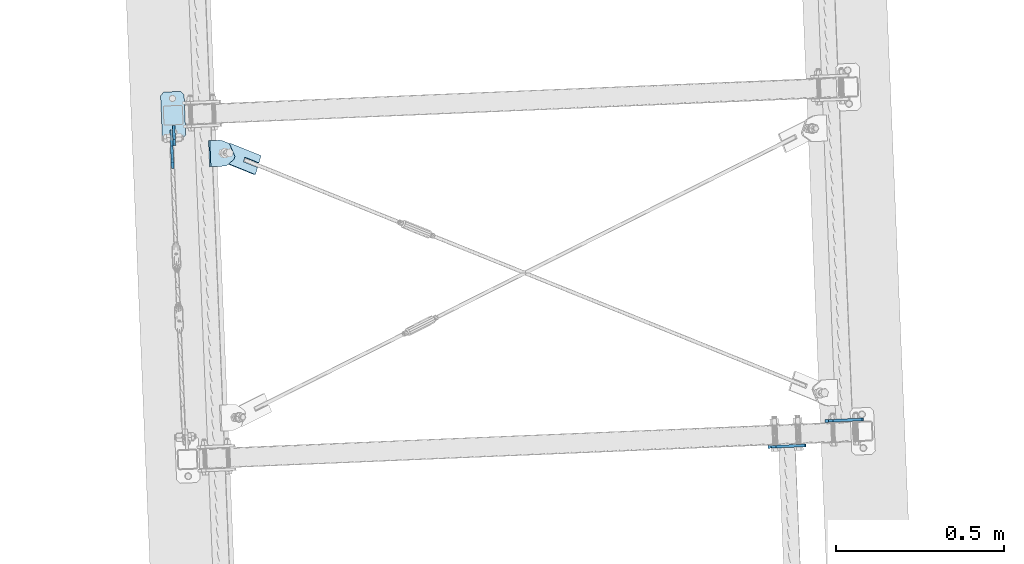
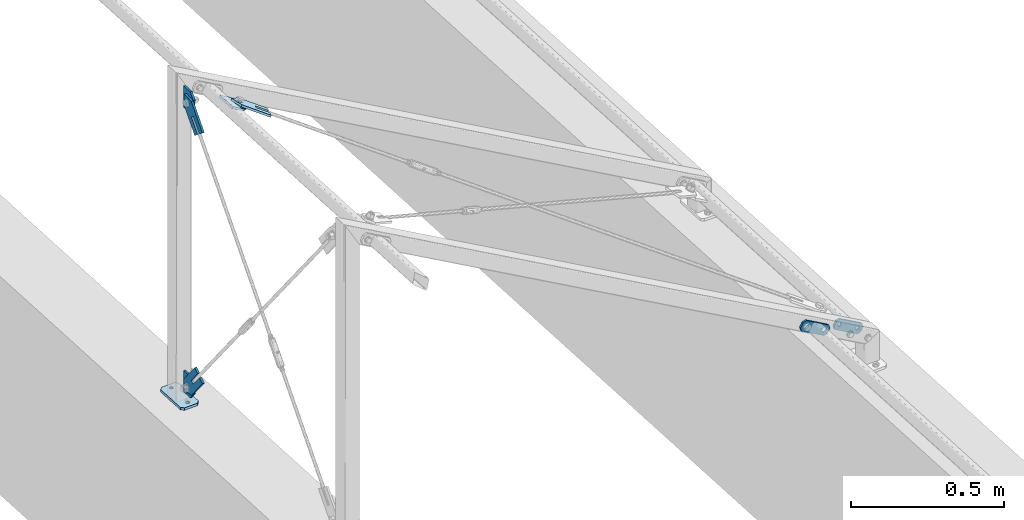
# One storey, part 38 of 288: 9 plates, 38 openings.
"""IFC2X3 building model written with IfcOpenShell, lengths in millimetres."""

from ifc_helpers import new_model, entity, si_unit, converted_unit, point, frame, frame_2d, origin, origin_with_axes, origin_2d_with_axis, place, context, project, spatial, polyline, circle_curve, line_curve, trimmed, segment, composite_curve, circle, outline, extrude, material, layer, layer_set, element, save


model = new_model("IFC2X3")

# Units and contexts
model_context = context("Model", 3, precision=1e-09, world=origin_with_axes())
ifc_project = project(units=[si_unit("LENGTHUNIT", "METRE", prefix="MILLI"), si_unit("AREAUNIT", "SQUARE_METRE"), si_unit("VOLUMEUNIT", "CUBIC_METRE"), converted_unit("PLANEANGLEUNIT", "DEGREE", entity("IfcPlaneAngleMeasure", 0.01745329), si_unit("PLANEANGLEUNIT", "RADIAN"), dimensions=[0, 0, 0, 0, 0, 0, 0])], contexts=[model_context])

# Site, building, storey
site_placement = place(None, origin_with_axes())
site = spatial("IfcSite", under=ifc_project, at=site_placement, Name="Remont ?wietlik?w nad MC w NCPP w Opolu", CompositionType="ELEMENT")
building_placement = place(site_placement, origin_with_axes())
building = spatial("IfcBuilding", under=site, at=building_placement, Name="Konstrukcja 1", CompositionType="ELEMENT")
storey_placement = place(building_placement, origin_with_axes())
storey = spatial("IfcBuildingStorey", under=building, at=storey_placement, Name="Default Storey", CompositionType="ELEMENT", Elevation=0.0)

# Plate, openings
ifc_material = material(Name="S235")
ifc_layer_1 = layer(ifc_material, 8.0)
ifc_layer_set_1 = layer_set([ifc_layer_1], Name="S235")
plate_1_placement = place(None, frame((1600.768762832, 4079.453566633, 149.695917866), z_axis=(-0.041662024, 0.999131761, 1.7472e-05), x_axis=(0.499566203, 0.020815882, 0.866025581)))
plate_1 = element("IfcPlate", 1, at=plate_1_placement, inside=storey, material=ifc_layer_set_1, Name="-", ObjectType="-", context=model_context, shape_type="SweptSolid", body=[
    extrude(outline(polyline([(0.0, 0.0), (40.0, 0.0), (40.0, 120.0), (0.0, 120.0), (0.0, 0.0)])), origin_with_axes(), (0.0, 0.0, 1.0), 8.0),
])
opening_1_placement = place(plate_1_placement, frame((0.0, 0.0, -0.01), z_axis=(0.0, 0.0, 1.0), x_axis=(1.0, 0.0, 0.0)))
element("IfcOpeningElement", 2, at=opening_1_placement, cuts=plate_1, ObjectType="Opening", context=model_context, shape_type="SweptSolid", body=[
    extrude(outline(composite_curve([segment(trimmed(line_curve((40.0, 0.0), (0.0, 1.0), 10.0), [point((40.0, 0.0))], [point((40.0, 10.0))], True, "CARTESIAN"), True, "CONTINUOUS"), segment(trimmed(circle_curve(frame_2d((30.0, 10.0), x_axis=(-1.0, 0.0)), 10.0), [point((40.0, 10.0))], [point((30.0, 0.0))], False, "CARTESIAN"), True, "CONTINUOUS"), segment(trimmed(line_curve((30.0, 0.0), (1.0, 0.0), 10.0), [point((30.0, 0.0))], [point((40.0, 0.0))], True, "CARTESIAN"), True, "CONTINUOUS")], self_intersect=False)), origin(), (0.0, 0.0, 1.0), 8.02),
])
opening_2_placement = place(plate_1_placement, frame((0.0, 0.0, -0.01), z_axis=(0.0, 0.0, 1.0), x_axis=(1.0, 0.0, 0.0)))
element("IfcOpeningElement", 3, at=opening_2_placement, cuts=plate_1, ObjectType="Opening", context=model_context, shape_type="SweptSolid", body=[
    extrude(outline(composite_curve([segment(trimmed(line_curve((0.0, 0.0), (1.0, 0.0), 10.0), [point((0.0, 0.0))], [point((10.0, 0.0))], True, "CARTESIAN"), True, "CONTINUOUS"), segment(trimmed(circle_curve(frame_2d((10.0, 10.0), x_axis=(-1.0, 0.0)), 10.0), [point((10.0, 0.0))], [point((0.0, 10.0))], False, "CARTESIAN"), True, "CONTINUOUS"), segment(trimmed(line_curve((0.0, 10.0), (0.0, -1.0), 10.0), [point((0.0, 10.0))], [point((0.0, 0.0))], True, "CARTESIAN"), True, "CONTINUOUS")], self_intersect=False)), origin(), (0.0, 0.0, 1.0), 8.02),
])
opening_3_placement = place(plate_1_placement, frame((0.0, 0.0, -0.01), z_axis=(0.0, 0.0, 1.0), x_axis=(1.0, 0.0, 0.0)))
element("IfcOpeningElement", 4, at=opening_3_placement, cuts=plate_1, ObjectType="Opening", context=model_context, shape_type="SweptSolid", body=[
    extrude(outline(composite_curve([segment(trimmed(line_curve((40.0, 120.0), (-1.0, 0.0), 10.0), [point((40.0, 120.0))], [point((30.0, 120.0))], True, "CARTESIAN"), True, "CONTINUOUS"), segment(trimmed(circle_curve(frame_2d((30.0, 110.0), x_axis=(-1.0, 0.0)), 10.0), [point((30.0, 120.0))], [point((40.0, 110.0))], False, "CARTESIAN"), True, "CONTINUOUS"), segment(trimmed(line_curve((40.0, 110.0), (0.0, 1.0), 10.0), [point((40.0, 110.0))], [point((40.0, 120.0))], True, "CARTESIAN"), True, "CONTINUOUS")], self_intersect=False)), origin(), (0.0, 0.0, 1.0), 8.02),
])
opening_4_placement = place(plate_1_placement, frame((0.0, 0.0, -0.01), z_axis=(0.0, 0.0, 1.0), x_axis=(1.0, 0.0, 0.0)))
element("IfcOpeningElement", 5, at=opening_4_placement, cuts=plate_1, ObjectType="Opening", context=model_context, shape_type="SweptSolid", body=[
    extrude(outline(composite_curve([segment(trimmed(line_curve((0.0, 120.0), (0.0, -1.0), 10.0), [point((0.0, 120.0))], [point((0.0, 110.0))], True, "CARTESIAN"), True, "CONTINUOUS"), segment(trimmed(circle_curve(frame_2d((10.0, 110.0), x_axis=(-1.0, 0.0)), 10.0), [point((0.0, 110.0))], [point((10.0, 120.0))], False, "CARTESIAN"), True, "CONTINUOUS"), segment(trimmed(line_curve((10.0, 120.0), (-1.0, 0.0), 10.0), [point((10.0, 120.0))], [point((0.0, 120.0))], True, "CARTESIAN"), True, "CONTINUOUS")], self_intersect=False)), origin(), (0.0, 0.0, 1.0), 8.02),
])
opening_5_placement = place(plate_1_placement, frame((19.99842578, 27.001033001, 8.499903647), z_axis=(-2.0054e-05, 4.2e-07, 1.0), x_axis=(1.0, 0.0, 2.0054e-05)))
element("IfcOpeningElement", 6, at=opening_5_placement, cuts=plate_1, ObjectType="Opening", context=model_context, shape_type="SweptSolid", body=[
    extrude(circle(Radius=7.001, at=frame_2d((-4e-09, -7.001), x_axis=(1.0, 0.0))), origin(), (0.0, 0.0, -1.0), 9.000033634),
])
opening_6_placement = place(plate_1_placement, frame((19.998425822, 107.001033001, 8.499870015), z_axis=(-2.0054e-05, 4.2e-07, 1.0), x_axis=(1.0, 0.0, 2.0054e-05)))
element("IfcOpeningElement", 7, at=opening_6_placement, cuts=plate_1, ObjectType="Opening", context=model_context, shape_type="SweptSolid", body=[
    extrude(circle(Radius=7.001, at=frame_2d((-4e-09, -7.001), x_axis=(1.0, 0.0))), origin(), (0.0, 0.0, -1.0), 9.000033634),
])

plate_2_placement = place(None, frame((1430.589775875, 4002.294911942, 249.68728671), z_axis=(-0.041662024, 0.999131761, 1.7472e-05), x_axis=(0.499566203, 0.020815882, 0.866025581)))
plate_2 = element("IfcPlate", 8, at=plate_2_placement, inside=storey, material=ifc_layer_set_1, Name="-", ObjectType="-", context=model_context, shape_type="SweptSolid", body=[
    extrude(outline(polyline([(0.0, 0.0), (40.0, 0.0), (40.0, 120.0), (0.0, 120.0), (0.0, 0.0)])), origin_with_axes(), (0.0, 0.0, 1.0), 8.0),
])
opening_7_placement = place(plate_2_placement, frame((0.0, 0.0, -0.01), z_axis=(0.0, 0.0, 1.0), x_axis=(1.0, 0.0, 0.0)))
element("IfcOpeningElement", 9, at=opening_7_placement, cuts=plate_2, ObjectType="Opening", context=model_context, shape_type="SweptSolid", body=[
    extrude(outline(composite_curve([segment(trimmed(line_curve((40.0, 0.0), (0.0, 1.0), 10.0), [point((40.0, 0.0))], [point((40.0, 10.0))], True, "CARTESIAN"), True, "CONTINUOUS"), segment(trimmed(circle_curve(frame_2d((30.0, 10.0), x_axis=(-1.0, 0.0)), 10.0), [point((40.0, 10.0))], [point((30.0, 0.0))], False, "CARTESIAN"), True, "CONTINUOUS"), segment(trimmed(line_curve((30.0, 0.0), (1.0, 0.0), 10.0), [point((30.0, 0.0))], [point((40.0, 0.0))], True, "CARTESIAN"), True, "CONTINUOUS")], self_intersect=False)), origin(), (0.0, 0.0, 1.0), 8.02),
])
opening_8_placement = place(plate_2_placement, frame((0.0, 0.0, -0.01), z_axis=(0.0, 0.0, 1.0), x_axis=(1.0, 0.0, 0.0)))
element("IfcOpeningElement", 10, at=opening_8_placement, cuts=plate_2, ObjectType="Opening", context=model_context, shape_type="SweptSolid", body=[
    extrude(outline(composite_curve([segment(trimmed(line_curve((0.0, 0.0), (1.0, 0.0), 10.0), [point((0.0, 0.0))], [point((10.0, 0.0))], True, "CARTESIAN"), True, "CONTINUOUS"), segment(trimmed(circle_curve(frame_2d((10.0, 10.0), x_axis=(-1.0, 0.0)), 10.0), [point((10.0, 0.0))], [point((0.0, 10.0))], False, "CARTESIAN"), True, "CONTINUOUS"), segment(trimmed(line_curve((0.0, 10.0), (0.0, -1.0), 10.0), [point((0.0, 10.0))], [point((0.0, 0.0))], True, "CARTESIAN"), True, "CONTINUOUS")], self_intersect=False)), origin(), (0.0, 0.0, 1.0), 8.02),
])
opening_9_placement = place(plate_2_placement, frame((0.0, 0.0, -0.01), z_axis=(0.0, 0.0, 1.0), x_axis=(1.0, 0.0, 0.0)))
element("IfcOpeningElement", 11, at=opening_9_placement, cuts=plate_2, ObjectType="Opening", context=model_context, shape_type="SweptSolid", body=[
    extrude(outline(composite_curve([segment(trimmed(line_curve((40.0, 120.0), (-1.0, 0.0), 10.0), [point((40.0, 120.0))], [point((30.0, 120.0))], True, "CARTESIAN"), True, "CONTINUOUS"), segment(trimmed(circle_curve(frame_2d((30.0, 110.0), x_axis=(-1.0, 0.0)), 10.0), [point((30.0, 120.0))], [point((40.0, 110.0))], False, "CARTESIAN"), True, "CONTINUOUS"), segment(trimmed(line_curve((40.0, 110.0), (0.0, 1.0), 10.0), [point((40.0, 110.0))], [point((40.0, 120.0))], True, "CARTESIAN"), True, "CONTINUOUS")], self_intersect=False)), origin(), (0.0, 0.0, 1.0), 8.02),
])
opening_10_placement = place(plate_2_placement, frame((0.0, 0.0, -0.01), z_axis=(0.0, 0.0, 1.0), x_axis=(1.0, 0.0, 0.0)))
element("IfcOpeningElement", 12, at=opening_10_placement, cuts=plate_2, ObjectType="Opening", context=model_context, shape_type="SweptSolid", body=[
    extrude(outline(composite_curve([segment(trimmed(line_curve((0.0, 120.0), (0.0, -1.0), 10.0), [point((0.0, 120.0))], [point((0.0, 110.0))], True, "CARTESIAN"), True, "CONTINUOUS"), segment(trimmed(circle_curve(frame_2d((10.0, 110.0), x_axis=(-1.0, 0.0)), 10.0), [point((0.0, 110.0))], [point((10.0, 120.0))], False, "CARTESIAN"), True, "CONTINUOUS"), segment(trimmed(line_curve((10.0, 120.0), (-1.0, 0.0), 10.0), [point((10.0, 120.0))], [point((0.0, 120.0))], True, "CARTESIAN"), True, "CONTINUOUS")], self_intersect=False)), origin(), (0.0, 0.0, 1.0), 8.02),
])
opening_11_placement = place(plate_2_placement, frame((19.999829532, 29.001003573, 8.499866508), z_axis=(-2.0054e-05, 4.2e-07, 1.0), x_axis=(1.0, 0.0, 2.0054e-05)))
element("IfcOpeningElement", 13, at=opening_11_placement, cuts=plate_2, ObjectType="Opening", context=model_context, shape_type="SweptSolid", body=[
    extrude(circle(Radius=9.001, at=frame_2d((-5e-09, -9.001), x_axis=(1.0, 0.0))), origin(), (0.0, 0.0, -1.0), 9.000033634),
])
opening_12_placement = place(plate_2_placement, frame((19.999829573, 109.001003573, 8.499832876), z_axis=(-2.0054e-05, 4.2e-07, 1.0), x_axis=(1.0, 0.0, 2.0054e-05)))
element("IfcOpeningElement", 14, at=opening_12_placement, cuts=plate_2, ObjectType="Opening", context=model_context, shape_type="SweptSolid", body=[
    extrude(circle(Radius=9.001, at=frame_2d((-5e-09, -9.001), x_axis=(1.0, 0.0))), origin(), (0.0, 0.0, -1.0), 9.000033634),
])

ifc_layer_2 = layer(ifc_material, 10.0)
ifc_layer_set_2 = layer_set([ifc_layer_2], Name="S235")
plate_3_placement = place(None, frame((-295.450163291, 4924.625800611, 10.000000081), z_axis=(0.0, 0.0, -1.0), x_axis=(-0.999131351, -0.041671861, 0.0)))
plate_3 = element("IfcPlate", 15, at=plate_3_placement, inside=storey, material=ifc_layer_set_2, Name="Baseplate", ObjectType="Baseplate", context=model_context, shape_type="SweptSolid", body=[
    extrude(outline(polyline([(0.0, 0.0), (70.0, 0.0), (70.0, 140.0), (0.0, 140.0), (0.0, 0.0)])), origin_with_axes(), (0.0, 0.0, 1.0), 10.0),
])
opening_13_placement = place(plate_3_placement, frame((0.0, 0.0, -0.01), z_axis=(0.0, 0.0, 1.0), x_axis=(1.0, 0.0, 0.0)))
element("IfcOpeningElement", 16, at=opening_13_placement, cuts=plate_3, ObjectType="Opening", context=model_context, shape_type="SweptSolid", body=[
    extrude(outline(composite_curve([segment(trimmed(line_curve((70.0, 0.0), (0.0, 1.0), 10.0), [point((70.0, 0.0))], [point((70.0, 10.0))], True, "CARTESIAN"), True, "CONTINUOUS"), segment(trimmed(circle_curve(frame_2d((60.0, 10.0), x_axis=(-1.0, 0.0)), 10.0), [point((70.0, 10.0))], [point((60.0, 0.0))], False, "CARTESIAN"), True, "CONTINUOUS"), segment(trimmed(line_curve((60.0, 0.0), (1.0, 0.0), 10.0), [point((60.0, 0.0))], [point((70.0, 0.0))], True, "CARTESIAN"), True, "CONTINUOUS")], self_intersect=False)), origin(), (0.0, 0.0, 1.0), 10.02),
])
opening_14_placement = place(plate_3_placement, frame((0.0, 0.0, -0.01), z_axis=(0.0, 0.0, 1.0), x_axis=(1.0, 0.0, 0.0)))
element("IfcOpeningElement", 17, at=opening_14_placement, cuts=plate_3, ObjectType="Opening", context=model_context, shape_type="SweptSolid", body=[
    extrude(outline(composite_curve([segment(trimmed(line_curve((0.0, 0.0), (1.0, 0.0), 10.0), [point((0.0, 0.0))], [point((10.0, 0.0))], True, "CARTESIAN"), True, "CONTINUOUS"), segment(trimmed(circle_curve(frame_2d((10.0, 10.0), x_axis=(-1.0, 0.0)), 10.0), [point((10.0, 0.0))], [point((0.0, 10.0))], False, "CARTESIAN"), True, "CONTINUOUS"), segment(trimmed(line_curve((0.0, 10.0), (0.0, -1.0), 10.0), [point((0.0, 10.0))], [point((0.0, 0.0))], True, "CARTESIAN"), True, "CONTINUOUS")], self_intersect=False)), origin(), (0.0, 0.0, 1.0), 10.02),
])
opening_15_placement = place(plate_3_placement, frame((0.0, 0.0, -0.01), z_axis=(0.0, 0.0, 1.0), x_axis=(1.0, 0.0, 0.0)))
element("IfcOpeningElement", 18, at=opening_15_placement, cuts=plate_3, ObjectType="Opening", context=model_context, shape_type="SweptSolid", body=[
    extrude(outline(composite_curve([segment(trimmed(line_curve((70.0, 140.0), (-1.0, 0.0), 10.0), [point((70.0, 140.0))], [point((60.0, 140.0))], True, "CARTESIAN"), True, "CONTINUOUS"), segment(trimmed(circle_curve(frame_2d((60.0, 130.0), x_axis=(-1.0, 0.0)), 10.0), [point((60.0, 140.0))], [point((70.0, 130.0))], False, "CARTESIAN"), True, "CONTINUOUS"), segment(trimmed(line_curve((70.0, 130.0), (0.0, 1.0), 10.0), [point((70.0, 130.0))], [point((70.0, 140.0))], True, "CARTESIAN"), True, "CONTINUOUS")], self_intersect=False)), origin(), (0.0, 0.0, 1.0), 10.02),
])
opening_16_placement = place(plate_3_placement, frame((0.0, 0.0, -0.01), z_axis=(0.0, 0.0, 1.0), x_axis=(1.0, 0.0, 0.0)))
element("IfcOpeningElement", 19, at=opening_16_placement, cuts=plate_3, ObjectType="Opening", context=model_context, shape_type="SweptSolid", body=[
    extrude(outline(composite_curve([segment(trimmed(line_curve((0.0, 140.0), (0.0, -1.0), 10.0), [point((0.0, 140.0))], [point((0.0, 130.0))], True, "CARTESIAN"), True, "CONTINUOUS"), segment(trimmed(circle_curve(frame_2d((10.0, 130.0), x_axis=(-1.0, 0.0)), 10.0), [point((0.0, 130.0))], [point((10.0, 140.0))], False, "CARTESIAN"), True, "CONTINUOUS"), segment(trimmed(line_curve((10.0, 140.0), (-1.0, 0.0), 10.0), [point((10.0, 140.0))], [point((0.0, 140.0))], True, "CARTESIAN"), True, "CONTINUOUS")], self_intersect=False)), origin(), (0.0, 0.0, 1.0), 10.02),
])
opening_17_placement = place(plate_3_placement, frame((35.0, 20.0, 10.5), z_axis=(0.0, 0.0, -1.0), x_axis=(1.0, 0.0, 0.0)))
element("IfcOpeningElement", 20, at=opening_17_placement, cuts=plate_3, ObjectType="Opening", context=model_context, shape_type="SweptSolid", body=[
    extrude(circle(Radius=6.001, at=origin_2d_with_axis()), origin(), (0.0, 0.0, 1.0), 11.0),
])
opening_18_placement = place(plate_3_placement, frame((35.0, 120.0, 10.5), z_axis=(0.0, 0.0, -1.0), x_axis=(1.0, 0.0, 0.0)))
element("IfcOpeningElement", 21, at=opening_18_placement, cuts=plate_3, ObjectType="Opening", context=model_context, shape_type="SweptSolid", body=[
    extrude(circle(Radius=6.001, at=origin_2d_with_axis()), origin(), (0.0, 0.0, 1.0), 11.0),
])

plate_4_placement = place(None, frame((-330.723490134, 4834.507582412, 153.409700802), z_axis=(-0.999130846, -0.041683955, 0.0), x_axis=(-0.032787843, 0.785898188, 0.617486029)))
plate_4 = element("IfcPlate", 22, at=plate_4_placement, inside=storey, material=ifc_layer_set_1, Name="Tab_Plate#1", ObjectType="Tab_Plate#1", context=model_context, shape_type="SweptSolid", body=[
    extrude(outline(polyline([(0.0, 0.0), (60.0, 0.0), (60.0, 140.0), (0.0, 140.0), (0.0, 0.0)])), origin_with_axes(), (0.0, 0.0, 1.0), 8.0),
])
opening_19_placement = place(plate_4_placement, frame((0.0, 0.0, -0.01), z_axis=(0.0, 0.0, 1.0), x_axis=(1.0, 0.0, 0.0)))
element("IfcOpeningElement", 23, at=opening_19_placement, cuts=plate_4, ObjectType="Opening", context=model_context, shape_type="SweptSolid", body=[
    extrude(outline(composite_curve([segment(trimmed(line_curve((60.0, 140.0), (-1.0, 0.0), 30.0), [point((60.0, 140.0))], [point((30.0, 140.0))], True, "CARTESIAN"), True, "CONTINUOUS"), segment(trimmed(circle_curve(frame_2d((30.0, 110.0), x_axis=(-1.0, 0.0)), 30.0), [point((30.0, 140.0))], [point((60.0, 110.0))], False, "CARTESIAN"), True, "CONTINUOUS"), segment(trimmed(line_curve((60.0, 110.0), (0.0, 1.0), 30.0), [point((60.0, 110.0))], [point((60.0, 140.0))], True, "CARTESIAN"), True, "CONTINUOUS")], self_intersect=False)), origin(), (0.0, 0.0, 1.0), 8.02),
])
opening_20_placement = place(plate_4_placement, frame((0.0, 0.0, -0.01), z_axis=(0.0, 0.0, 1.0), x_axis=(1.0, 0.0, 0.0)))
element("IfcOpeningElement", 24, at=opening_20_placement, cuts=plate_4, ObjectType="Opening", context=model_context, shape_type="SweptSolid", body=[
    extrude(outline(composite_curve([segment(trimmed(line_curve((0.0, 140.0), (0.0, -1.0), 30.0), [point((0.0, 140.0))], [point((0.0, 110.0))], True, "CARTESIAN"), True, "CONTINUOUS"), segment(trimmed(circle_curve(frame_2d((30.0, 110.0), x_axis=(-1.0, 0.0)), 30.0), [point((0.0, 110.0))], [point((30.0, 140.0))], False, "CARTESIAN"), True, "CONTINUOUS"), segment(trimmed(line_curve((30.0, 140.0), (-1.0, 0.0), 30.0), [point((30.0, 140.0))], [point((0.0, 140.0))], True, "CARTESIAN"), True, "CONTINUOUS")], self_intersect=False)), origin(), (0.0, 0.0, 1.0), 8.02),
])
opening_21_placement = place(plate_4_placement, frame((0.0, 0.0, 8.1), z_axis=(0.0, 0.0, -1.0), x_axis=(0.786581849, 0.617486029, 0.0)))
element("IfcOpeningElement", 25, at=opening_21_placement, cuts=plate_4, ObjectType="Opening", context=model_context, shape_type="SweptSolid", body=[
    extrude(outline(polyline([(55.757861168, -33.780718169), (66.771580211, -25.134678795), (29.103697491, 22.848387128), (18.089978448, 14.202347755), (55.757861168, -33.780718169)])), origin(), (0.0, 0.0, 1.0), 8.2),
])
opening_22_placement = place(plate_4_placement, frame((30.0, 110.0, 8.5), z_axis=(0.0, 0.0, -1.0), x_axis=(0.0, -1.0, 0.0)))
element("IfcOpeningElement", 26, at=opening_22_placement, cuts=plate_4, ObjectType="Opening", context=model_context, shape_type="SweptSolid", body=[
    extrude(circle(Radius=9.001, at=origin_2d_with_axis()), origin(), (0.0, 0.0, 1.0), 9.0),
])

plate_5_placement = place(None, frame((-334.749901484, 4931.017420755, 127.532314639), z_axis=(0.999130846, 0.041683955, 0.0), x_axis=(0.032787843, -0.785898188, -0.617486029)))
plate_5 = element("IfcPlate", 27, at=plate_5_placement, inside=storey, material=ifc_layer_set_1, Name="Gusset#1", ObjectType="Gusset#1", context=model_context, shape_type="SweptSolid", body=[
    extrude(outline(polyline([(0.0, 0.0), (60.0, 0.0), (60.0, 60.0), (26.867685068, 86.009679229), (-25.151852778, 19.744820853), (0.0, 0.0)])), origin_with_axes(), (0.0, 0.0, 1.0), 8.0),
])
opening_23_placement = place(plate_5_placement, frame((30.0, 30.0, -0.5), z_axis=(0.0, 0.0, 1.0), x_axis=(0.0, -1.0, 0.0)))
element("IfcOpeningElement", 28, at=opening_23_placement, cuts=plate_5, ObjectType="Opening", context=model_context, shape_type="SweptSolid", body=[
    extrude(circle(Radius=9.001, at=origin_2d_with_axis()), origin(), (0.0, 0.0, 1.0), 9.0),
])
opening_24_placement = place(plate_5_placement, frame((0.0, 0.0, -0.01), z_axis=(0.0, 0.0, 1.0), x_axis=(1.0, 0.0, 0.0)))
element("IfcOpeningElement", 29, at=opening_24_placement, cuts=plate_5, ObjectType="Opening", context=model_context, shape_type="SweptSolid", body=[
    extrude(outline(composite_curve([segment(trimmed(line_curve((60.0, 0.0), (0.0, 1.0), 30.0), [point((60.0, 0.0))], [point((60.0, 30.0))], True, "CARTESIAN"), True, "CONTINUOUS"), segment(trimmed(circle_curve(frame_2d((30.0, 30.0), x_axis=(-1.0, 0.0)), 30.0), [point((60.0, 30.0))], [point((30.0, 0.0))], False, "CARTESIAN"), True, "CONTINUOUS"), segment(trimmed(line_curve((30.0, 0.0), (1.0, 0.0), 30.0), [point((30.0, 0.0))], [point((60.0, 0.0))], True, "CARTESIAN"), True, "CONTINUOUS")], self_intersect=False)), origin(), (0.0, 0.0, 1.0), 8.02),
])

plate_6_placement = place(None, frame((-338.70798654, 4834.174564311, 1151.590299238), z_axis=(0.999131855, 0.041659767, 0.0), x_axis=(-0.032768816, 0.785898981, -0.617486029)))
plate_6 = element("IfcPlate", 30, at=plate_6_placement, inside=storey, material=ifc_layer_set_1, Name="Tab_Plate#2", ObjectType="Tab_Plate#2", context=model_context, shape_type="SweptSolid", body=[
    extrude(outline(polyline([(0.0, 0.0), (60.0, 0.0), (60.0, 140.0), (0.0, 140.0), (0.0, 0.0)])), origin_with_axes(), (0.0, 0.0, 1.0), 8.0),
])
opening_25_placement = place(plate_6_placement, frame((0.0, 0.0, -0.01), z_axis=(0.0, 0.0, 1.0), x_axis=(1.0, 0.0, 0.0)))
element("IfcOpeningElement", 31, at=opening_25_placement, cuts=plate_6, ObjectType="Opening", context=model_context, shape_type="SweptSolid", body=[
    extrude(outline(composite_curve([segment(trimmed(line_curve((60.0, 140.0), (-1.0, 0.0), 30.0), [point((60.0, 140.0))], [point((30.0, 140.0))], True, "CARTESIAN"), True, "CONTINUOUS"), segment(trimmed(circle_curve(frame_2d((30.0, 110.0), x_axis=(-1.0, 0.0)), 30.0), [point((30.0, 140.0))], [point((60.0, 110.0))], False, "CARTESIAN"), True, "CONTINUOUS"), segment(trimmed(line_curve((60.0, 110.0), (0.0, 1.0), 30.0), [point((60.0, 110.0))], [point((60.0, 140.0))], True, "CARTESIAN"), True, "CONTINUOUS")], self_intersect=False)), origin(), (0.0, 0.0, 1.0), 8.02),
])
opening_26_placement = place(plate_6_placement, frame((0.0, 0.0, -0.01), z_axis=(0.0, 0.0, 1.0), x_axis=(1.0, 0.0, 0.0)))
element("IfcOpeningElement", 32, at=opening_26_placement, cuts=plate_6, ObjectType="Opening", context=model_context, shape_type="SweptSolid", body=[
    extrude(outline(composite_curve([segment(trimmed(line_curve((0.0, 140.0), (0.0, -1.0), 30.0), [point((0.0, 140.0))], [point((0.0, 110.0))], True, "CARTESIAN"), True, "CONTINUOUS"), segment(trimmed(circle_curve(frame_2d((30.0, 110.0), x_axis=(-1.0, 0.0)), 30.0), [point((0.0, 110.0))], [point((30.0, 140.0))], False, "CARTESIAN"), True, "CONTINUOUS"), segment(trimmed(line_curve((30.0, 140.0), (-1.0, 0.0), 30.0), [point((30.0, 140.0))], [point((0.0, 140.0))], True, "CARTESIAN"), True, "CONTINUOUS")], self_intersect=False)), origin(), (0.0, 0.0, 1.0), 8.02),
])
opening_27_placement = place(plate_6_placement, frame((0.0, 0.0, 8.1), z_axis=(0.0, 0.0, -1.0), x_axis=(-0.786581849, -0.617486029, 0.0)))
element("IfcOpeningElement", 33, at=opening_27_placement, cuts=plate_6, ObjectType="Opening", context=model_context, shape_type="SweptSolid", body=[
    extrude(outline(polyline([(-55.757861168, 33.780718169), (-66.771580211, 25.134678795), (-29.103697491, -22.848387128), (-18.089978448, -14.202347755), (-55.757861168, 33.780718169)])), origin(), (0.0, 0.0, 1.0), 8.2),
])
opening_28_placement = place(plate_6_placement, frame((30.0, 110.0, 8.5), z_axis=(0.0, 0.0, -1.0), x_axis=(0.0, -1.0, 0.0)))
element("IfcOpeningElement", 34, at=opening_28_placement, cuts=plate_6, ObjectType="Opening", context=model_context, shape_type="SweptSolid", body=[
    extrude(circle(Radius=9.001, at=origin_2d_with_axis()), origin(), (0.0, 0.0, 1.0), 9.0),
])

plate_7_placement = place(None, frame((-326.745951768, 4931.351056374, 1177.467685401), z_axis=(-0.999131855, -0.041659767, 0.0), x_axis=(0.032768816, -0.785898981, 0.617486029)))
plate_7 = element("IfcPlate", 35, at=plate_7_placement, inside=storey, material=ifc_layer_set_1, Name="Gusset#2", ObjectType="Gusset#2", context=model_context, shape_type="SweptSolid", body=[
    extrude(outline(polyline([(0.0, 0.0), (60.0, 0.0), (60.0, 60.0), (26.867532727, 86.009798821), (-25.152005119, 19.744940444), (0.0, 0.0)])), origin_with_axes(), (0.0, 0.0, 1.0), 8.0),
])
opening_29_placement = place(plate_7_placement, frame((30.0, 30.0, -0.5), z_axis=(0.0, 0.0, 1.0), x_axis=(0.0, -1.0, 0.0)))
element("IfcOpeningElement", 36, at=opening_29_placement, cuts=plate_7, ObjectType="Opening", context=model_context, shape_type="SweptSolid", body=[
    extrude(circle(Radius=9.001, at=origin_2d_with_axis()), origin(), (0.0, 0.0, 1.0), 9.0),
])
opening_30_placement = place(plate_7_placement, frame((0.0, 0.0, -0.01), z_axis=(0.0, 0.0, 1.0), x_axis=(1.0, 0.0, 0.0)))
element("IfcOpeningElement", 37, at=opening_30_placement, cuts=plate_7, ObjectType="Opening", context=model_context, shape_type="SweptSolid", body=[
    extrude(outline(composite_curve([segment(trimmed(line_curve((60.0, 0.0), (0.0, 1.0), 30.0), [point((60.0, 0.0))], [point((60.0, 30.0))], True, "CARTESIAN"), True, "CONTINUOUS"), segment(trimmed(circle_curve(frame_2d((30.0, 30.0), x_axis=(-1.0, 0.0)), 30.0), [point((60.0, 30.0))], [point((30.0, 0.0))], False, "CARTESIAN"), True, "CONTINUOUS"), segment(trimmed(line_curve((30.0, 0.0), (1.0, 0.0), 30.0), [point((30.0, 0.0))], [point((60.0, 0.0))], True, "CARTESIAN"), True, "CONTINUOUS")], self_intersect=False)), origin(), (0.0, 0.0, 1.0), 8.02),
])

plate_8_placement = place(None, frame((-71.893356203, 4872.987775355, 1135.490336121), z_axis=(-0.500767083, -0.020865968, -0.865330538), x_axis=(-0.276563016, -0.943450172, 0.182796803)))
plate_8 = element("IfcPlate", 38, at=plate_8_placement, inside=storey, material=ifc_layer_set_1, Name="Tab_Plate#1", ObjectType="Tab_Plate#1", context=model_context, shape_type="SweptSolid", body=[
    extrude(outline(polyline([(0.0, 0.0), (60.0, 0.0), (60.0, 140.0), (0.0, 140.0), (0.0, 0.0)])), origin_with_axes(), (0.0, 0.0, 1.0), 8.0),
])
opening_31_placement = place(plate_8_placement, frame((0.0, 0.0, -0.01), z_axis=(0.0, 0.0, 1.0), x_axis=(1.0, 0.0, 0.0)))
element("IfcOpeningElement", 39, at=opening_31_placement, cuts=plate_8, ObjectType="Opening", context=model_context, shape_type="SweptSolid", body=[
    extrude(outline(composite_curve([segment(trimmed(line_curve((60.0, 140.0), (-1.0, 0.0), 30.0), [point((60.0, 140.0))], [point((30.0, 140.0))], True, "CARTESIAN"), True, "CONTINUOUS"), segment(trimmed(circle_curve(frame_2d((30.0, 110.0), x_axis=(-1.0, 0.0)), 30.0), [point((30.0, 140.0))], [point((60.0, 110.0))], False, "CARTESIAN"), True, "CONTINUOUS"), segment(trimmed(line_curve((60.0, 110.0), (0.0, 1.0), 30.0), [point((60.0, 110.0))], [point((60.0, 140.0))], True, "CARTESIAN"), True, "CONTINUOUS")], self_intersect=False)), origin(), (0.0, 0.0, 1.0), 8.02),
])
opening_32_placement = place(plate_8_placement, frame((0.0, 0.0, -0.01), z_axis=(0.0, 0.0, 1.0), x_axis=(1.0, 0.0, 0.0)))
element("IfcOpeningElement", 40, at=opening_32_placement, cuts=plate_8, ObjectType="Opening", context=model_context, shape_type="SweptSolid", body=[
    extrude(outline(composite_curve([segment(trimmed(line_curve((0.0, 140.0), (0.0, -1.0), 30.0), [point((0.0, 140.0))], [point((0.0, 110.0))], True, "CARTESIAN"), True, "CONTINUOUS"), segment(trimmed(circle_curve(frame_2d((30.0, 110.0), x_axis=(-1.0, 0.0)), 30.0), [point((0.0, 110.0))], [point((30.0, 140.0))], False, "CARTESIAN"), True, "CONTINUOUS"), segment(trimmed(line_curve((30.0, 140.0), (-1.0, 0.0), 30.0), [point((30.0, 140.0))], [point((0.0, 140.0))], True, "CARTESIAN"), True, "CONTINUOUS")], self_intersect=False)), origin(), (0.0, 0.0, 1.0), 8.02),
])
opening_33_placement = place(plate_8_placement, frame((0.0, 0.0, 8.1), z_axis=(0.0, 0.0, -1.0), x_axis=(-0.931118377, 0.364717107, 0.0)))
element("IfcOpeningElement", 41, at=opening_33_placement, cuts=plate_8, ObjectType="Opening", context=model_context, shape_type="SweptSolid", body=[
    extrude(outline(polyline([(-2.813854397, 55.876097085), (-15.851373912, 60.982866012), (-34.452675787, 13.493966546), (-21.415156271, 8.387197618), (-2.813854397, 55.876097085)])), origin(), (0.0, 0.0, 1.0), 8.2),
])
opening_34_placement = place(plate_8_placement, frame((30.0, 110.0, 8.5), z_axis=(0.0, 0.0, -1.0), x_axis=(0.0, -1.0, 0.0)))
element("IfcOpeningElement", 42, at=opening_34_placement, cuts=plate_8, ObjectType="Opening", context=model_context, shape_type="SweptSolid", body=[
    extrude(circle(Radius=9.001, at=origin_2d_with_axis()), origin(), (0.0, 0.0, 1.0), 9.0),
])

plate_9_placement = place(None, frame((-162.116248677, 4842.515473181, 1169.947098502), z_axis=(0.500767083, 0.020865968, 0.865330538), x_axis=(0.276563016, 0.943450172, -0.182796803)))
plate_9 = element("IfcPlate", 43, at=plate_9_placement, inside=storey, material=ifc_layer_set_1, Name="Gusset#1", ObjectType="Gusset#1", context=model_context, shape_type="SweptSolid", body=[
    extrude(outline(polyline([(0.0, 0.0), (60.0, 0.0), (60.0, 60.0), (45.826198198, 96.181831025), (-26.568490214, 67.822073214), (0.0, 0.0)])), origin_with_axes(), (0.0, 0.0, 1.0), 8.0),
])
opening_35_placement = place(plate_9_placement, frame((30.0, 30.0, -0.5), z_axis=(0.0, 0.0, 1.0), x_axis=(0.0, -1.0, 0.0)))
element("IfcOpeningElement", 44, at=opening_35_placement, cuts=plate_9, ObjectType="Opening", context=model_context, shape_type="SweptSolid", body=[
    extrude(circle(Radius=9.001, at=origin_2d_with_axis()), origin(), (0.0, 0.0, 1.0), 9.0),
])
opening_36_placement = place(plate_9_placement, frame((0.0, 0.0, -0.01), z_axis=(0.0, 0.0, 1.0), x_axis=(1.0, 0.0, 0.0)))
element("IfcOpeningElement", 45, at=opening_36_placement, cuts=plate_9, ObjectType="Opening", context=model_context, shape_type="SweptSolid", body=[
    extrude(outline(composite_curve([segment(trimmed(line_curve((0.0, 0.0), (1.0, 0.0), 20.467615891), [point((0.0, 0.0))], [point((20.467615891, 0.0))], True, "CARTESIAN"), True, "CONTINUOUS"), segment(trimmed(circle_curve(frame_2d((20.467615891, 30.0), x_axis=(-1.0, 0.0)), 30.0), [point((20.467615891, 0.0))], [point((-7.465553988, 19.057513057))], False, "CARTESIAN"), True, "CONTINUOUS"), segment(trimmed(line_curve((-7.465553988, 19.057513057), (0.364749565, -0.931105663), 20.467615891), [point((-7.465553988, 19.057513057))], [point((0.0, 0.0))], True, "CARTESIAN"), True, "CONTINUOUS")], self_intersect=False)), origin(), (0.0, 0.0, 1.0), 8.02),
])
opening_37_placement = place(plate_9_placement, frame((0.0, 0.0, -0.01), z_axis=(0.0, 0.0, 1.0), x_axis=(1.0, 0.0, 0.0)))
element("IfcOpeningElement", 46, at=opening_37_placement, cuts=plate_9, ObjectType="Opening", context=model_context, shape_type="SweptSolid", body=[
    extrude(outline(composite_curve([segment(trimmed(line_curve((60.0, 0.0), (0.0, 1.0), 30.0), [point((60.0, 0.0))], [point((60.0, 30.0))], True, "CARTESIAN"), True, "CONTINUOUS"), segment(trimmed(circle_curve(frame_2d((30.0, 30.0), x_axis=(-1.0, 0.0)), 30.0), [point((60.0, 30.0))], [point((30.0, 0.0))], False, "CARTESIAN"), True, "CONTINUOUS"), segment(trimmed(line_curve((30.0, 0.0), (1.0, 0.0), 30.0), [point((30.0, 0.0))], [point((60.0, 0.0))], True, "CARTESIAN"), True, "CONTINUOUS")], self_intersect=False)), origin(), (0.0, 0.0, 1.0), 8.02),
])
opening_38_placement = place(plate_9_placement, frame((0.0, 0.0, -0.01), z_axis=(0.0, 0.0, 1.0), x_axis=(1.0, 0.0, 0.0)))
element("IfcOpeningElement", 47, at=opening_38_placement, cuts=plate_9, ObjectType="Opening", context=model_context, shape_type="SweptSolid", body=[
    extrude(outline(composite_curve([segment(trimmed(line_curve((60.0, 60.0), (-0.364749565, 0.931105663), 5.666436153), [point((60.0, 60.0))], [point((57.933169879, 65.276050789))], True, "CARTESIAN"), True, "CONTINUOUS"), segment(trimmed(circle_curve(frame_2d((30.0, 54.333563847), x_axis=(-1.0, 0.0)), 30.0), [point((57.933169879, 65.276050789))], [point((60.0, 54.333563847))], False, "CARTESIAN"), True, "CONTINUOUS"), segment(trimmed(line_curve((60.0, 54.333563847), (0.0, 1.0), 5.666436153), [point((60.0, 54.333563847))], [point((60.0, 60.0))], True, "CARTESIAN"), True, "CONTINUOUS")], self_intersect=False)), origin(), (0.0, 0.0, 1.0), 8.02),
])

save(model, "model.ifc")
